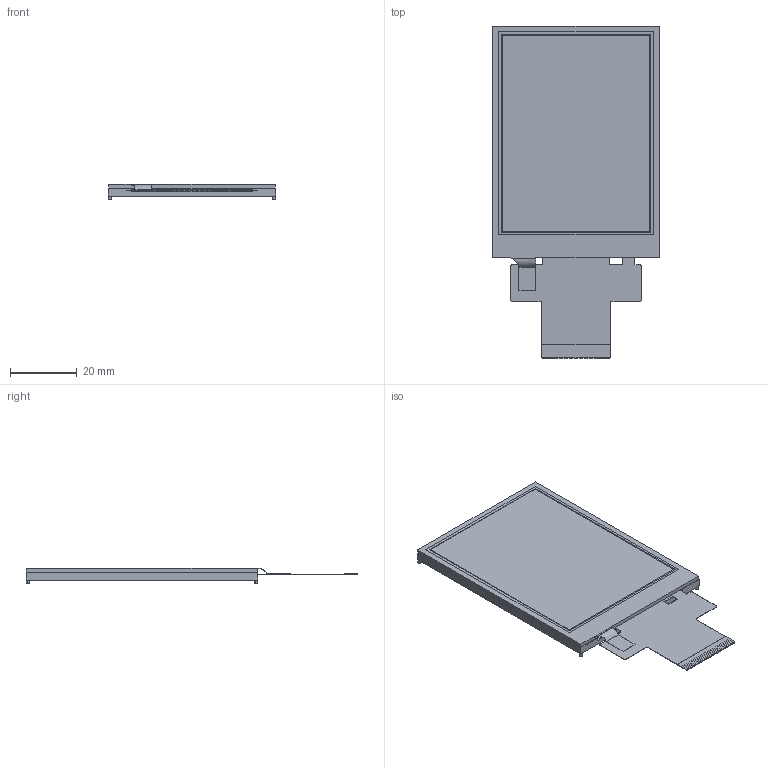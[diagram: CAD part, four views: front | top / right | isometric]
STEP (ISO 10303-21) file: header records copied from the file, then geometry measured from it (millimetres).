
FILE_DESCRIPTION (( 'STEP AP214' ), '1' );
FILE_NAME ('NHD-2.8-240320AF-CSXP-FT.STEP', '2018-08-30T19:32:14', ( '' ), ( '' ), 'SwSTEP 2.0', 'SolidWorks 2018', '' );
FILE_SCHEMA (( 'AUTOMOTIVE_DESIGN' ));
Length unit declared in the file: millimetre
Products named in the file (1): NHD-2.8-240320AF-CSXP-FT
Bounding box: 50 x 99.2 x 4.54 mm (x, y, z)
Volume: 17848.6 mm3; surface area: 39081.6 mm2
Topology: 7 solids, 7 shells, 273 faces, 765 edges, 508 vertices
Faces by surface type: plane 253, cylinder 20
Entity records: 11730 total; most frequent: CARTESIAN_POINT 1553, ORIENTED_EDGE 1530, DIRECTION 1351, EDGE_CURVE 765, LINE 723, VECTOR 723, VERTEX_POINT 508, AXIS2_PLACEMENT_3D 314
